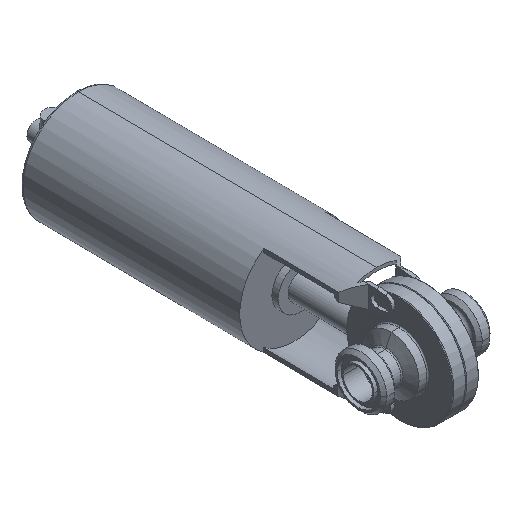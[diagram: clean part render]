
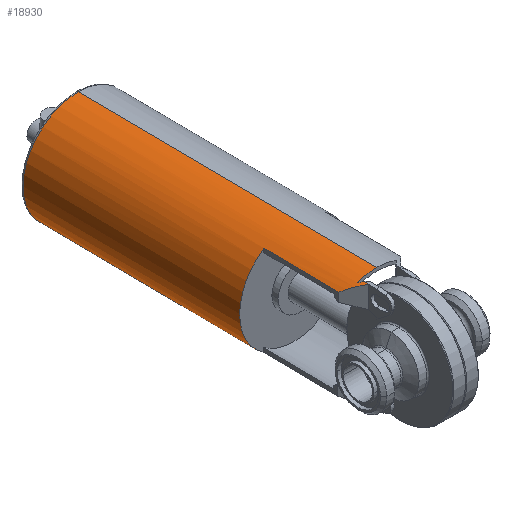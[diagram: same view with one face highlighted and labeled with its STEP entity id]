
A CAD part, isometric view. The second image highlights one B-rep face of the part: STEP entity #18930.
In plain terms, the highlighted cylindrical face has radius 42.5 mm (diameter 85 mm), a partial arc.
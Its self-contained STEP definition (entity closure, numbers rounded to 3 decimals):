
#950=CARTESIAN_POINT('',(-63.381,-188.914,
-44.596));
#960=VERTEX_POINT('',#950);
#990=CARTESIAN_POINT('',(-28.306,-212.914,
-44.596));
#1000=DIRECTION('',(0.,0.,1.));
#1010=DIRECTION('',(1.,0.,0.));
#1020=AXIS2_PLACEMENT_3D('',#990,#1000,#1010);
#1030=CIRCLE('',#1020,42.5);
#1040=CARTESIAN_POINT('',(6.769,-188.914,
-44.596));
#1050=VERTEX_POINT('',#1040);
#1060=EDGE_CURVE('',#1050,#960,#1030,.T.);
#1640=CARTESIAN_POINT('',(12.314,-200.414,
24.897));
#1650=VERTEX_POINT('',#1640);
#1680=CARTESIAN_POINT('',(12.314,-200.414,
-241.458));
#1690=DIRECTION('',(0.,0.,1.));
#1700=VECTOR('',#1690,1.);
#1710=LINE('',#1680,#1700);
#4110=CARTESIAN_POINT('',(12.314,-200.414,
21.362));
#4120=VERTEX_POINT('',#4110);
#4150=CARTESIAN_POINT('',(-28.306,-212.914,
33.862));
#4160=DIRECTION('',(0.,-0.707,-0.707));
#4170=DIRECTION('',(0.,0.707,-0.707));
#4180=AXIS2_PLACEMENT_3D('',#4150,#4160,#4170);
#4190=ELLIPSE('',#4180,60.104,42.5);
#4200=CARTESIAN_POINT('',(11.437,-197.856,
18.804));
#4210=VERTEX_POINT('',#4200);
#4220=EDGE_CURVE('',#4210,#4120,#4190,.T.);
#4690=CARTESIAN_POINT('',(6.769,-188.914,
13.397));
#4700=VERTEX_POINT('',#4690);
#4980=CARTESIAN_POINT('',(6.769,-188.914,
-241.458));
#4990=DIRECTION('',(0.,0.,1.));
#5000=VECTOR('',#4990,1.);
#5010=LINE('',#4980,#5000);
#5020=EDGE_CURVE('',#1050,#4700,#5010,.T.);
#11360=CARTESIAN_POINT('',(-28.306,-212.914,
18.804));
#11370=DIRECTION('',(0.,0.,1.));
#11380=DIRECTION('',(1.,0.,0.));
#11390=AXIS2_PLACEMENT_3D('',#11360,#11370,#11380);
#11400=CIRCLE('',#11390,42.5);
#11410=CARTESIAN_POINT('',(14.194,-212.914,
18.804));
#11420=VERTEX_POINT('',#11410);
#11430=EDGE_CURVE('',#11420,#4210,#11400,.T.);
#12940=EDGE_CURVE('',#4120,#1650,#1710,.T.);
#13060=CARTESIAN_POINT('',(-28.306,-212.914,
37.397));
#13070=DIRECTION('',(0.,0.707,0.707));
#13080=DIRECTION('',(0.,-0.707,0.707));
#13090=AXIS2_PLACEMENT_3D('',#13060,#13070,#13080);
#13100=ELLIPSE('',#13090,60.104,42.5);
#13110=EDGE_CURVE('',#1650,#4700,#13100,.T.);
#17510=CARTESIAN_POINT('',(-63.381,-188.914,
-241.458));
#17520=DIRECTION('',(0.,0.,1.));
#17530=VECTOR('',#17520,1.);
#17540=LINE('',#17510,#17530);
#17550=CARTESIAN_POINT('',(-63.381,-188.914,
13.397));
#17560=VERTEX_POINT('',#17550);
#17570=EDGE_CURVE('',#960,#17560,#17540,.T.);
#17950=CARTESIAN_POINT('',(-28.306,-212.914,
-44.596));
#17960=DIRECTION('',(0.,0.,1.));
#17970=DIRECTION('',(-1.,0.,0.));
#17980=AXIS2_PLACEMENT_3D('',#17950,#17960,#17970);
#17990=CYLINDRICAL_SURFACE('',#17980,42.5);
#18000=CARTESIAN_POINT('',(14.194,-212.914,
-44.596));
#18010=DIRECTION('',(0.,0.,1.));
#18020=VECTOR('',#18010,1.);
#18030=LINE('',#18000,#18020);
#18040=CARTESIAN_POINT('',(14.194,-212.914,
-212.596));
#18050=VERTEX_POINT('',#18040);
#18060=EDGE_CURVE('',#18050,#11420,#18030,.T.);
#18070=ORIENTED_EDGE('',*,*,#18060,.F.);
#18080=ORIENTED_EDGE('',*,*,#11430,.F.);
#18090=ORIENTED_EDGE('',*,*,#4220,.F.);
#18100=ORIENTED_EDGE('',*,*,#12940,.F.);
#18110=ORIENTED_EDGE('',*,*,#13110,.F.);
#18120=ORIENTED_EDGE('',*,*,#5020,.T.);
#18130=ORIENTED_EDGE('',*,*,#1060,.F.);
#18140=ORIENTED_EDGE('',*,*,#17570,.F.);
#18150=CARTESIAN_POINT('',(-28.306,-212.914,
37.397));
#18160=DIRECTION('',(0.,-0.707,-0.707));
#18170=DIRECTION('',(0.,-0.707,0.707));
#18180=AXIS2_PLACEMENT_3D('',#18150,#18160,#18170);
#18190=ELLIPSE('',#18180,60.104,42.5);
#18200=CARTESIAN_POINT('',(-68.926,-200.414,
24.897));
#18210=VERTEX_POINT('',#18200);
#18220=EDGE_CURVE('',#18210,#17560,#18190,.T.);
#18230=ORIENTED_EDGE('',*,*,#18220,.T.);
#18240=CARTESIAN_POINT('',(-68.926,-200.414,
-241.458));
#18250=DIRECTION('',(0.,0.,1.));
#18260=VECTOR('',#18250,1.);
#18270=LINE('',#18240,#18260);
#18280=CARTESIAN_POINT('',(-68.926,-200.414,
31.352));
#18290=VERTEX_POINT('',#18280);
#18300=EDGE_CURVE('',#18210,#18290,#18270,.T.);
#18310=ORIENTED_EDGE('',*,*,#18300,.F.);
#18320=CARTESIAN_POINT('',(-28.306,-212.914,
387.871));
#18330=DIRECTION('',(-0.994,0.,0.113));
#18340=DIRECTION('',(-0.113,0.,-0.994));
#18350=AXIS2_PLACEMENT_3D('',#18320,#18330,#18340);
#18360=ELLIPSE('',#18350,375.431,42.5);
#18370=CARTESIAN_POINT('',(-69.45,-202.267,
26.749));
#18380=VERTEX_POINT('',#18370);
#18390=EDGE_CURVE('',#18290,#18380,#18360,.T.);
#18400=ORIENTED_EDGE('',*,*,#18390,.F.);
#18410=CARTESIAN_POINT('',(-28.306,-212.914,
37.397));
#18420=DIRECTION('',(0.,0.707,0.707));
#18430=DIRECTION('',(0.,0.707,-0.707));
#18440=AXIS2_PLACEMENT_3D('',#18410,#18420,#18430);
#18450=ELLIPSE('',#18440,60.104,42.5);
#18460=CARTESIAN_POINT('',(-69.613,-202.914,
27.397));
#18470=VERTEX_POINT('',#18460);
#18480=EDGE_CURVE('',#18380,#18470,#18450,.T.);
#18490=ORIENTED_EDGE('',*,*,#18480,.F.);
#18500=CARTESIAN_POINT('',(-69.613,-202.914,
-241.458));
#18510=DIRECTION('',(0.,0.,1.));
#18520=VECTOR('',#18510,1.);
#18530=LINE('',#18500,#18520);
#18540=CARTESIAN_POINT('',(-69.613,-202.914,
23.862));
#18550=VERTEX_POINT('',#18540);
#18560=EDGE_CURVE('',#18550,#18470,#18530,.T.);
#18570=ORIENTED_EDGE('',*,*,#18560,.T.);
#18580=CARTESIAN_POINT('',(-28.306,-212.914,
33.862));
#18590=DIRECTION('',(0.,-0.707,-0.707));
#18600=DIRECTION('',(0.,-0.707,0.707));
#18610=AXIS2_PLACEMENT_3D('',#18580,#18590,#18600);
#18620=ELLIPSE('',#18610,60.104,42.5);
#18630=CARTESIAN_POINT('',(-68.049,-197.856,
18.804));
#18640=VERTEX_POINT('',#18630);
#18650=EDGE_CURVE('',#18550,#18640,#18620,.T.);
#18660=ORIENTED_EDGE('',*,*,#18650,.F.);
#18670=CARTESIAN_POINT('',(-28.306,-212.914,
18.804));
#18680=DIRECTION('',(0.,0.,1.));
#18690=DIRECTION('',(-1.,0.,0.));
#18700=AXIS2_PLACEMENT_3D('',#18670,#18680,#18690);
#18710=CIRCLE('',#18700,42.5);
#18720=CARTESIAN_POINT('',(-70.806,-212.914,
18.804));
#18730=VERTEX_POINT('',#18720);
#18740=EDGE_CURVE('',#18640,#18730,#18710,.T.);
#18750=ORIENTED_EDGE('',*,*,#18740,.F.);
#18760=CARTESIAN_POINT('',(-70.806,-212.914,
-44.596));
#18770=DIRECTION('',(0.,0.,1.));
#18780=VECTOR('',#18770,1.);
#18790=LINE('',#18760,#18780);
#18800=CARTESIAN_POINT('',(-70.806,-212.914,
-212.596));
#18810=VERTEX_POINT('',#18800);
#18820=EDGE_CURVE('',#18810,#18730,#18790,.T.);
#18830=ORIENTED_EDGE('',*,*,#18820,.T.);
#18840=CARTESIAN_POINT('',(-28.306,-212.914,
-212.596));
#18850=DIRECTION('',(0.,0.,1.));
#18860=DIRECTION('',(1.,0.,-0.));
#18870=AXIS2_PLACEMENT_3D('',#18840,#18850,#18860);
#18880=CIRCLE('',#18870,42.5);
#18890=EDGE_CURVE('',#18050,#18810,#18880,.T.);
#18900=ORIENTED_EDGE('',*,*,#18890,.T.);
#18910=EDGE_LOOP('',(#18900,#18830,#18750,#18660,#18570,#18490,#18400,
#18310,#18230,#18140,#18130,#18120,#18110,#18100,#18090,#18080,#18070));
#18920=FACE_OUTER_BOUND('',#18910,.T.);
#18930=ADVANCED_FACE('',(#18920),#17990,.T.);
